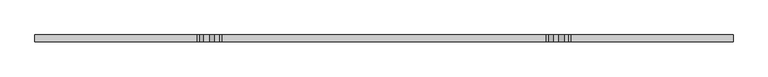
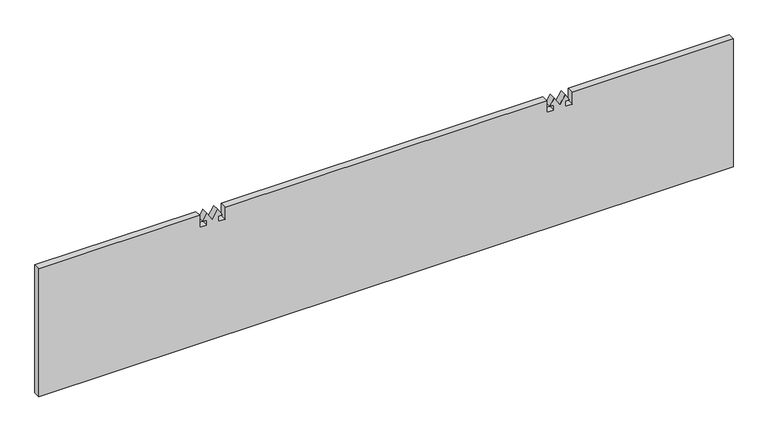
"""IFC4 building model written with IfcOpenShell, lengths in millimetres: proxy geometry, instalación_stratus 1.3dm."""

import ifcopenshell
import ifcopenshell.guid

model = None  # the IFC model being written
_history = None  # IfcOwnerHistory: only IFC2X3 demands one
_inside = {}  # id of a spatial element -> (the spatial element, [elements in it])
_under = {}  # id of a project, library or spatial element -> (it, [spatial elements below it])
_declared = {}  # id of a project -> (the project, [libraries it declares])
_typed = {}  # id of a type object -> (the type object, [elements of that type])
_made_of = {}  # id of a material, layer set ... -> (it, [elements and type objects made of it])


def new_model(schema):
    """Start an empty IFC model of exactly this schema.

    Asked for "IFC4X3", IfcOpenShell would pick the latest addendum, in which some entities
    have other attributes; the version numbers below select the first issue.
    IFC2X3 requires an IfcOwnerHistory on every rooted entity: one is made here for all.
    """
    global model, _history
    if schema == "IFC4X3":
        model = ifcopenshell.file(schema_version=(4, 3, 0, 0))
    else:
        model = ifcopenshell.file(schema=schema)
    _inside.clear()
    _under.clear()
    _declared.clear()
    _typed.clear()
    _made_of.clear()
    _history = None
    if model.schema == "IFC2X3":
        org = make("IfcOrganization", Name="unknown")
        user = make(
            "IfcPersonAndOrganization",
            ThePerson=make("IfcPerson", FamilyName="unknown"),
            TheOrganization=org,
        )
        app = make(
            "IfcApplication",
            ApplicationDeveloper=org,
            Version="unknown",
            ApplicationFullName="unknown",
            ApplicationIdentifier="unknown",
        )
        _history = make(
            "IfcOwnerHistory",
            OwningUser=user,
            OwningApplication=app,
            ChangeAction="ADDED",
            CreationDate=0,
        )
    return model


def make(cls, **values):
    """One entity of the class cls with the attributes given. An attribute that is None is left unset."""
    return model.create_entity(
        cls, **{name: value for name, value in values.items() if value is not None}
    )


def rooted(cls, **values):
    """An entity with a GlobalId (a new one), such as an element, a storey or a relation."""
    return make(cls, GlobalId=ifcopenshell.guid.new(), OwnerHistory=_history, **values)


def si_unit(unit_type, name, prefix=None):
    """IfcSIUnit, for example si_unit("LENGTHUNIT", "METRE", prefix="MILLI")."""
    return make("IfcSIUnit", UnitType=unit_type, Prefix=prefix, Name=name)


def assignment(units):
    """IfcUnitAssignment: the units of a project."""
    return None if units is None else make("IfcUnitAssignment", Units=units)


def point(xyz):
    """IfcCartesianPoint."""
    return None if xyz is None else make("IfcCartesianPoint", Coordinates=xyz)


def direction(xyz):
    """IfcDirection."""
    return None if xyz is None else make("IfcDirection", DirectionRatios=xyz)


def frame(location, z_axis=None, x_axis=None):
    """IfcAxis2Placement3D, a coordinate frame: its origin and axes. An axis left out is left unset."""
    return make(
        "IfcAxis2Placement3D",
        Location=point(location),
        Axis=direction(z_axis),
        RefDirection=direction(x_axis),
    )


def origin():
    """The frame at (0, 0, 0) with its axes left unset."""
    return frame((0.0, 0.0, 0.0))


def place(relative_to, where):
    """IfcLocalPlacement: puts the frame where relative to a parent placement (None: the world)."""
    return make(
        "IfcLocalPlacement", PlacementRelTo=relative_to, RelativePlacement=where
    )


def context(
    kind, dimensions, precision=None, world=None, true_north=None, identifier=None
):
    """IfcGeometricRepresentationContext, for example the 3D "Model" context."""
    return make(
        "IfcGeometricRepresentationContext",
        ContextIdentifier=identifier,
        ContextType=kind,
        CoordinateSpaceDimension=dimensions,
        Precision=precision,
        WorldCoordinateSystem=world,
        TrueNorth=true_north,
    )


def project(units=None, contexts=None):
    """IfcProject with its units and contexts."""
    return rooted(
        "IfcProject",
        Name="project",
        RepresentationContexts=contexts,
        UnitsInContext=assignment(units),
    )


def spatial(cls, under=None, at=None, **own):
    """A site, building, storey or space (cls), placed at a placement, below another one or the project."""
    s = rooted(cls, ObjectPlacement=at, **own)
    if under is not None:
        _under.setdefault(under.id(), (under, []))[1].append(s)
    return s


def polyline(points):
    """IfcPolyline through the points."""
    return make("IfcPolyline", Points=[point(p) for p in points])


def outline(outer, holes=None, kind="AREA"):
    """IfcArbitraryClosedProfileDef: a profile drawn as a closed curve; with holes, ...WithVoids."""
    if holes is None:
        return make("IfcArbitraryClosedProfileDef", ProfileType=kind, OuterCurve=outer)
    return make(
        "IfcArbitraryProfileDefWithVoids",
        ProfileType=kind,
        OuterCurve=outer,
        InnerCurves=holes,
    )


def extrude(swept, where, along, depth):
    """IfcExtrudedAreaSolid: the profile swept, set in the frame where, extruded along a direction by depth."""
    return make(
        "IfcExtrudedAreaSolid",
        SweptArea=swept,
        Position=where,
        ExtrudedDirection=direction(along),
        Depth=depth,
    )


def shape(context_of_items, identifier, shape_type, items):
    """IfcShapeRepresentation: the items that make up one representation, for example the "Body"."""
    return make(
        "IfcShapeRepresentation",
        ContextOfItems=context_of_items,
        RepresentationIdentifier=identifier,
        RepresentationType=shape_type,
        Items=items,
    )


def source(mapping_origin, context_of_items, identifier, shape_type, items):
    """IfcRepresentationMap: a shape defined once, which mapped items show again and again."""
    return make(
        "IfcRepresentationMap",
        MappingOrigin=mapping_origin,
        MappedRepresentation=shape(context_of_items, identifier, shape_type, items),
    )


def transform(
    local_origin,
    x_axis=None,
    y_axis=None,
    z_axis=None,
    scale=None,
    scale2=None,
    scale3=None,
    uniform=True,
):
    """IfcCartesianTransformationOperator3D, or its non-uniform kind. x_axis, y_axis, z_axis: its Axis1, 2, 3."""
    if uniform:
        return make(
            "IfcCartesianTransformationOperator3D",
            Axis1=direction(x_axis),
            Axis2=direction(y_axis),
            LocalOrigin=point(local_origin),
            Scale=scale,
            Axis3=direction(z_axis),
        )
    return make(
        "IfcCartesianTransformationOperator3DnonUniform",
        Axis1=direction(x_axis),
        Axis2=direction(y_axis),
        LocalOrigin=point(local_origin),
        Scale=scale,
        Axis3=direction(z_axis),
        Scale2=scale2,
        Scale3=scale3,
    )


def mapped(mapping_source, mapping_target):
    """IfcMappedItem: shows the shape of a source again, moved by a transform."""
    return make(
        "IfcMappedItem", MappingSource=mapping_source, MappingTarget=mapping_target
    )


def made_of(thing, what):
    """Note that an element or type object is made of a material, layer set ...; save() writes the relation."""
    if what is not None:
        _made_of.setdefault(what.id(), (what, []))[1].append(thing)
    return thing


def element(
    cls,
    number,
    at=None,
    inside=None,
    cuts=None,
    type_object=None,
    material=None,
    context=None,
    identifier="Body",
    shape_type=None,
    held_by="IfcProductDefinitionShape",
    body=None,
    shapes=None,
    **own,
):
    """One element of the class cls, such as IfcWall. Its Tag is "e" and its number.

    at: its placement. inside: the storey or other place that contains it. cuts: it is an
    opening in that element (IfcRelVoidsElement). A single representation is given by context,
    identifier, shape_type and body (its items); several are given by shapes. held_by: the class
    of the entity that holds the representations. save() writes the other relations.
    """
    e = rooted(cls, Tag="e%d" % number, ObjectPlacement=at, **own)
    if body is not None:
        shapes = [shape(context, identifier, shape_type, body)]
    if shapes is not None:
        e.Representation = make(held_by, Representations=shapes)
    if inside is not None:
        _inside.setdefault(inside.id(), (inside, []))[1].append(e)
    if cuts is not None:
        rooted(
            "IfcRelVoidsElement", RelatingBuildingElement=cuts, RelatedOpeningElement=e
        )
    if type_object is not None:
        _typed.setdefault(type_object.id(), (type_object, []))[1].append(e)
    return made_of(e, material)


def aggregate(whole, parts):
    """IfcRelAggregates: a whole, such as a stair, and the parts it consists of."""
    return rooted("IfcRelAggregates", RelatingObject=whole, RelatedObjects=parts)


def save(model, path):
    """Write the relations noted so far, then the file.

    IfcRelAggregates (storeys below a building ...), IfcRelContainedInSpatialStructure (elements
    in a storey), IfcRelDefinesByType, IfcRelAssociatesMaterial and IfcRelDeclares: one each for
    every whole, place, type object, material and project.
    """
    for whole, parts in _under.values():
        aggregate(whole, parts)
    for where, things in _inside.values():
        rooted(
            "IfcRelContainedInSpatialStructure",
            RelatedElements=things,
            RelatingStructure=where,
        )
    for kind, things in _typed.values():
        rooted("IfcRelDefinesByType", RelatedObjects=things, RelatingType=kind)
    for what, things in _made_of.values():
        rooted("IfcRelAssociatesMaterial", RelatedObjects=things, RelatingMaterial=what)
    for by, libraries in _declared.values():
        rooted("IfcRelDeclares", RelatingContext=by, RelatedDefinitions=libraries)
    model.write(path)


def generic_models_06a3d784(model_context):
    return source(origin(), model_context, "Body", "SweptSolid", [
        extrude(outline(polyline([(-42.5638653, 291.811158), (-42.5638653, 279.553481), (-20.65, 279.553481), (-20.65, 0.0), (-255.6, 0.0), (-255.6, 1206.5), (-20.65, 1206.5), (-20.65, 926.946519), (-42.5638653, 926.946519), (-42.5638653, 914.688842), (-33.2622966, 914.688842), (-33.2622966, 922.0592541), (-20.65, 914.42236), (-36.4174225, 904.875), (-20.65, 895.32764), (-33.2622966, 887.6907459), (-33.2622966, 895.061158), (-42.5638653, 895.061158), (-42.5638653, 882.803481), (-20.65, 882.803481), (-20.65, 323.696519), (-42.5638653, 323.696519), (-42.5638653, 311.438842), (-33.2622966, 311.438842), (-33.2622966, 318.8092541), (-20.65, 311.17236), (-36.4174225, 301.625), (-20.65, 292.07764), (-33.2622966, 284.4407459), (-33.2622966, 291.811158), (-42.5638653, 291.811158)])), frame((0.0, -84.0489196, 0.0), z_axis=(0.0, 1.0, 0.0), x_axis=(0.0, 0.0, 1.0)), (0.0, 0.0, 1.0), 12.0),
    ])


if __name__ == "__main__":
    model = new_model("IFC4")
    model_context = context("Model", 3, world=origin())
    ifc_project = project(units=[si_unit("LENGTHUNIT", "METRE", prefix="MILLI")], contexts=[model_context])
    site = spatial("IfcSite", under=ifc_project)
    building = spatial("IfcBuilding", under=site)
    placement = place(None, origin())
    generic_models_shape = generic_models_06a3d784(model_context)
    element("IfcBuildingElementProxy", 1, Name="instalación_stratus 1.3dm", ObjectType="instalación_stratus 1.3dm", at=placement, inside=building, context=model_context, shape_type="MappedRepresentation", body=[
        mapped(generic_models_shape, transform((0.0, 0.0, 0.0), x_axis=(1.0, 0.0, 0.0), y_axis=(0.0, 1.0, 0.0), z_axis=(0.0, 0.0, 1.0))),
    ])
    save(model, "model.ifc")
